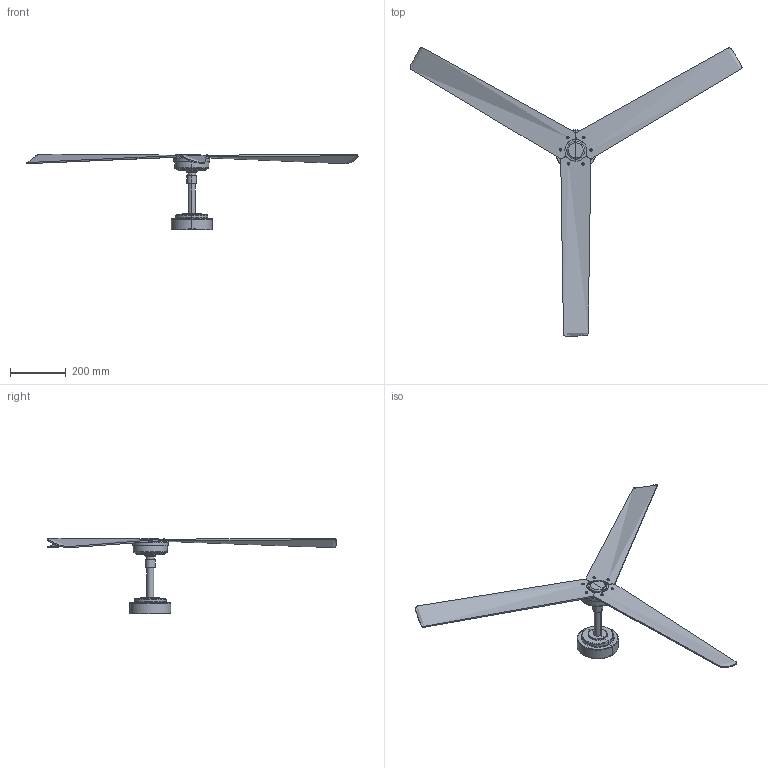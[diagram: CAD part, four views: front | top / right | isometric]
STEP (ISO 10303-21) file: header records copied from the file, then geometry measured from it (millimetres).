
FILE_DESCRIPTION(/* description */ (''),/* implementation_level */ '2;1');
FILE_NAME(/* name */ 'C:\Users\FrancoSartori\Documents\FARO\01_En Proceso\00_MILOS\03_Publicación\34100WP.stp',/* time_stamp */ '2021-06-15T11:18:37+02:00',/* author */ ('FrancoSartori'),/* organization */ (''),/* preprocessor_version */ 'ST-DEVELOPER v18.1',/* originating_system */ 'AutoCAD Mechanical',/* authorisation */ '');
FILE_SCHEMA (('AUTOMOTIVE_DESIGN { 1 0 10303 214 3 1 1 }'));
Length unit declared in the file: millimetre
Products named in the file (2): Product; 34100_ 34100WP_ - fan-480172-Export
Assembly tree (1 placements, depth 2):
  Product
    34100_ 34100WP_ - fan-480172-Export
Bounding box: 1190.92 x 1035.37 x 270.15 mm (x, y, z)
Volume: 1880780.2 mm3; surface area: 546251.4 mm2
Topology: 12 solids, 12 shells, 278 faces, 664 edges, 410 vertices
Faces by surface type: plane 145, cylinder 89, torus 22, bspline 18, cone 4
Entity records: 11168 total; most frequent: CARTESIAN_POINT 5085, ORIENTED_EDGE 1328, DIRECTION 1106, EDGE_CURVE 664, AXIS2_PLACEMENT_3D 413, VERTEX_POINT 410, EDGE_LOOP 294, LINE 280
